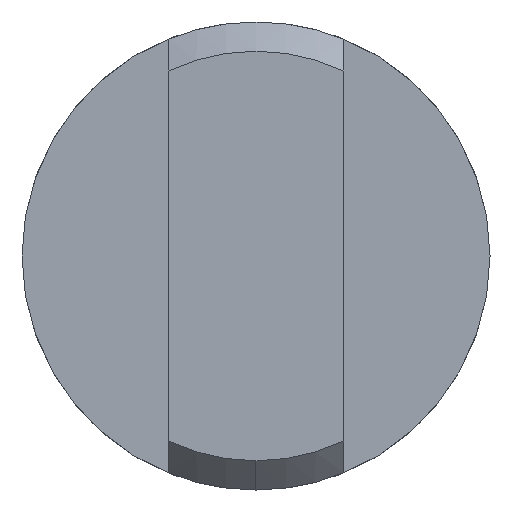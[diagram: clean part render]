
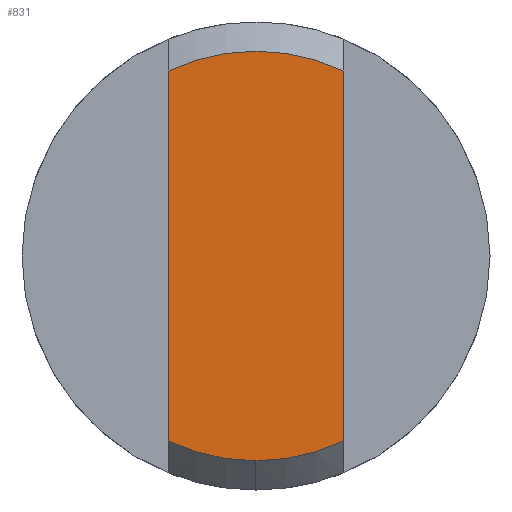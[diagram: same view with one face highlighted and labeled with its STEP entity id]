
A CAD part, left-side view. The second image highlights one B-rep face of the part: STEP entity #831.
In plain terms, the highlighted planar face has unit normal (-1, 0, 0).
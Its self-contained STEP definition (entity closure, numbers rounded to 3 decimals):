
#8 = CARTESIAN_POINT ( 'NONE',  ( -28.25, 0., 0. ) ) ;
#24 = LINE ( 'NONE', #1022, #593 ) ;
#79 = DIRECTION ( 'NONE',  ( 0., 0., -1. ) ) ;
#88 = DIRECTION ( 'NONE',  ( -1., 0., 0. ) ) ;
#117 = CIRCLE ( 'NONE', #999, 3.5 ) ;
#132 = CARTESIAN_POINT ( 'NONE',  ( -28.25, -1.5, 3.162 ) ) ;
#155 = LINE ( 'NONE', #506, #359 ) ;
#193 = AXIS2_PLACEMENT_3D ( 'NONE', #308, #558, #899 ) ;
#222 = FACE_OUTER_BOUND ( 'NONE', #352, .T. ) ;
#233 = ORIENTED_EDGE ( 'NONE', *, *, #701, .F. ) ;
#256 = EDGE_CURVE ( 'NONE', #559, #789, #155, .T. ) ;
#298 = AXIS2_PLACEMENT_3D ( 'NONE', #856, #88, #776 ) ;
#299 = DIRECTION ( 'NONE',  ( 0., 0., -1. ) ) ;
#308 = CARTESIAN_POINT ( 'NONE',  ( -28.25, 0., 0. ) ) ;
#329 = ORIENTED_EDGE ( 'NONE', *, *, #954, .T. ) ;
#352 = EDGE_LOOP ( 'NONE', ( #1013, #329, #233, #981, #716 ) ) ;
#359 = VECTOR ( 'NONE', #911, 1000. ) ;
#436 = AXIS2_PLACEMENT_3D ( 'NONE', #8, #668, #79 ) ;
#471 = PLANE ( 'NONE',  #193 ) ;
#506 = CARTESIAN_POINT ( 'NONE',  ( -28.25, -1.5, 0. ) ) ;
#558 = DIRECTION ( 'NONE',  ( 1., 0., 0. ) ) ;
#559 = VERTEX_POINT ( 'NONE', #132 ) ;
#579 = CARTESIAN_POINT ( 'NONE',  ( -28.25, 1.5, 3.162 ) ) ;
#580 = CARTESIAN_POINT ( 'NONE',  ( -28.25, -1.5, -3.162 ) ) ;
#586 = VERTEX_POINT ( 'NONE', #926 ) ;
#593 = VECTOR ( 'NONE', #872, 1000. ) ;
#638 = EDGE_CURVE ( 'NONE', #586, #703, #875, .T. ) ;
#646 = EDGE_CURVE ( 'NONE', #703, #789, #919, .T. ) ;
#668 = DIRECTION ( 'NONE',  ( -1., 0., 0. ) ) ;
#701 = EDGE_CURVE ( 'NONE', #586, #960, #24, .T. ) ;
#703 = VERTEX_POINT ( 'NONE', #706 ) ;
#706 = CARTESIAN_POINT ( 'NONE',  ( -28.25, 0., -3.5 ) ) ;
#716 = ORIENTED_EDGE ( 'NONE', *, *, #646, .T. ) ;
#727 = CARTESIAN_POINT ( 'NONE',  ( -28.25, 0., 0. ) ) ;
#776 = DIRECTION ( 'NONE',  ( 0., 0., -1. ) ) ;
#789 = VERTEX_POINT ( 'NONE', #580 ) ;
#831 = ADVANCED_FACE ( 'NONE', ( #222 ), #471, .F. ) ;
#856 = CARTESIAN_POINT ( 'NONE',  ( -28.25, 0., 0. ) ) ;
#872 = DIRECTION ( 'NONE',  ( 0., 0., 1. ) ) ;
#875 = CIRCLE ( 'NONE', #298, 3.5 ) ;
#899 = DIRECTION ( 'NONE',  ( 0., 0., -1. ) ) ;
#911 = DIRECTION ( 'NONE',  ( 0., 0., -1. ) ) ;
#919 = CIRCLE ( 'NONE', #436, 3.5 ) ;
#926 = CARTESIAN_POINT ( 'NONE',  ( -28.25, 1.5, -3.162 ) ) ;
#954 = EDGE_CURVE ( 'NONE', #559, #960, #117, .T. ) ;
#960 = VERTEX_POINT ( 'NONE', #579 ) ;
#981 = ORIENTED_EDGE ( 'NONE', *, *, #638, .T. ) ;
#999 = AXIS2_PLACEMENT_3D ( 'NONE', #727, #1046, #299 ) ;
#1013 = ORIENTED_EDGE ( 'NONE', *, *, #256, .F. ) ;
#1022 = CARTESIAN_POINT ( 'NONE',  ( -28.25, 1.5, 0. ) ) ;
#1046 = DIRECTION ( 'NONE',  ( -1., 0., 0. ) ) ;
